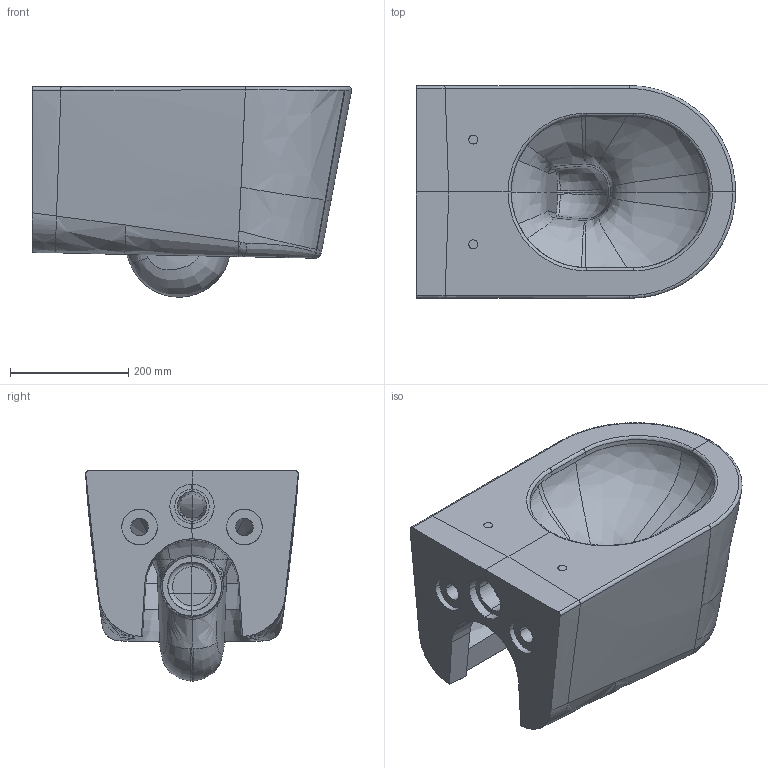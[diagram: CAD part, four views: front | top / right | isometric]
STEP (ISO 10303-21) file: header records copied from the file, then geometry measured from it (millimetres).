
FILE_DESCRIPTION(('CATIA V5 STEP Exchange'),'2;1');
FILE_NAME('C:\Users\167035\Downloads\7353\3D_7353.stp','2025-07-21T09:42:42+00:00',('none'),('none'),'CATIA Version 5 Release 19 SP 5 (IN-10)','CATIA V5 STEP AP214','none');
FILE_SCHEMA(('AUTOMOTIVE_DESIGN { 1 0 10303 214 1 1 1 1 }'));
Products named in the file (1): Vaso lati dritti
Bounding box: 539.46 x 359.47 x 355.4 mm (x, y, z)
Surface area: 1296659.1 mm2 (no closed solid volume)
Topology: 0 solids, 20 shells, 260 faces, 845 edges, 597 vertices
Faces by surface type: bspline 204, plane 34, cylinder 22
Entity records: 47572 total; most frequent: CARTESIAN_POINT 42236, ORIENTED_EDGE 1400, EDGE_CURVE 839, B_SPLINE_CURVE_WITH_KNOTS 689, VERTEX_POINT 597, EDGE_LOOP 268, ADVANCED_FACE 260, FACE_OUTER_BOUND 260
